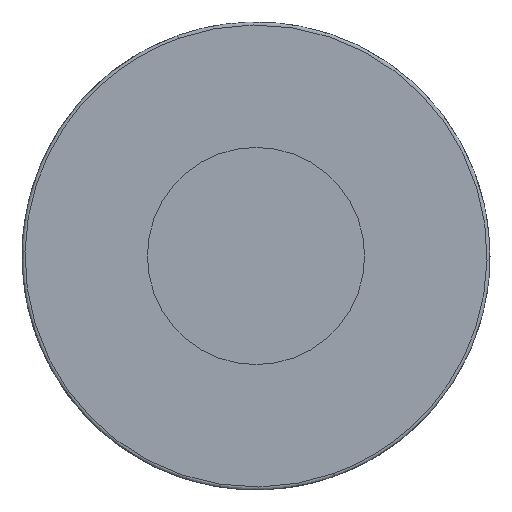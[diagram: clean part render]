
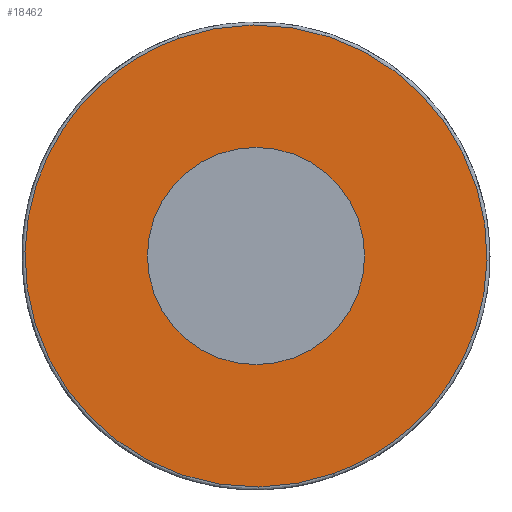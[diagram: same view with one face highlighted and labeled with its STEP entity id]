
A CAD part, left-side view. The second image highlights one B-rep face of the part: STEP entity #18462.
In plain terms, the highlighted free-form (B-spline) face has degree [1, 1] with [2, 2] control points.
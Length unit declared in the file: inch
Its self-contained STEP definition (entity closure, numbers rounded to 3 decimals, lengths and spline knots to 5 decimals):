
#2930 = CARTESIAN_POINT ( 'NONE',  ( 2.62704, -7.58101, 6.89548 ) ) ;
#3219 = CARTESIAN_POINT ( 'NONE',  ( 2.62704, -10.67397, -1.78239 ) ) ;
#3889 = CARTESIAN_POINT ( 'NONE',  ( 2.62704, -1.9961, -4.87536 ) ) ;
#4830 = CARTESIAN_POINT ( 'NONE',  ( 2.62704, 5.50643, 2.28954 ) ) ;
#6002 = CARTESIAN_POINT ( 'NONE',  ( 2.62704, -0.72058, -1.29666 ) ) ;
#6279 = ORIENTED_EDGE ( 'NONE', *, *, #11260, .F. ) ;
#7549 =( BOUNDED_CURVE ( )  B_SPLINE_CURVE ( 3, ( #22091, #15092, #8228, #19332 ),
 .UNSPECIFIED., .F., .T. ) 
 B_SPLINE_CURVE_WITH_KNOTS ( ( 4, 4 ),
 ( 0., 3.14159 ),
 .UNSPECIFIED. ) 
 CURVE ( )  GEOMETRIC_REPRESENTATION_ITEM ( )  RATIONAL_B_SPLINE_CURVE ( ( 0.957, 0.319, 0.319, 0.957 ) ) 
 REPRESENTATION_ITEM ( '' )  );
#8032 = EDGE_LOOP ( 'NONE', ( #6279, #14086 ) ) ;
#8228 = CARTESIAN_POINT ( 'NONE',  ( 2.62704, 9.77474, 0.70955 ) ) ;
#8404 =( BOUNDED_CURVE ( )  B_SPLINE_CURVE ( 3, ( #12618, #21520, #24131, #19336, #12761, #26166, #26025 ),
 .UNSPECIFIED., .F., .F. ) 
 B_SPLINE_CURVE_WITH_KNOTS ( ( 4, 3, 4 ),
 ( -3.14159, -1.5708, 0. ),
 .UNSPECIFIED. ) 
 CURVE ( )  GEOMETRIC_REPRESENTATION_ITEM ( )  RATIONAL_B_SPLINE_CURVE ( ( 1., 0.805, 0.805, 1., 0.805, 0.805, 1. ) ) 
 REPRESENTATION_ITEM ( '' )  );
#8589 = EDGE_CURVE ( 'NONE', #16836, #10717, #17661, .T. ) ;
#9777 = FACE_OUTER_BOUND ( 'NONE', #8032, .T. ) ;
#10245 = CARTESIAN_POINT ( 'NONE',  ( 2.62704, -0.72058, -1.29666 ) ) ;
#10571 = ORIENTED_EDGE ( 'NONE', *, *, #25318, .F. ) ;
#10717 = VERTEX_POINT ( 'NONE', #3889 ) ;
#11260 = EDGE_CURVE ( 'NONE', #10717, #16836, #7549, .T. ) ;
#12444 = CARTESIAN_POINT ( 'NONE',  ( 2.62704, -0.17865, 0.22382 ) ) ;
#12618 = CARTESIAN_POINT ( 'NONE',  ( 2.62704, -0.17865, 0.22382 ) ) ;
#12761 = CARTESIAN_POINT ( 'NONE',  ( 2.62704, 0.1519, -1.25273 ) ) ;
#14086 = ORIENTED_EDGE ( 'NONE', *, *, #8589, .F. ) ;
#14224 = CARTESIAN_POINT ( 'NONE',  ( 2.62704, -2.24106, -0.75473 ) ) ;
#15092 = CARTESIAN_POINT ( 'NONE',  ( 2.62704, 6.68178, -7.96833 ) ) ;
#16836 = VERTEX_POINT ( 'NONE', #20510 ) ;
#16970 = CARTESIAN_POINT ( 'NONE',  ( 2.62704, -1.69913, 0.76575 ) ) ;
#16977 = VERTEX_POINT ( 'NONE', #6002 ) ;
#17661 =( BOUNDED_CURVE ( )  B_SPLINE_CURVE ( 3, ( #18411, #2930, #3219, #21025 ),
 .UNSPECIFIED., .F., .T. ) 
 B_SPLINE_CURVE_WITH_KNOTS ( ( 4, 4 ),
 ( 0., 3.14159 ),
 .UNSPECIFIED. ) 
 CURVE ( )  GEOMETRIC_REPRESENTATION_ITEM ( )  RATIONAL_B_SPLINE_CURVE ( ( 0.957, 0.319, 0.319, 0.957 ) ) 
 REPRESENTATION_ITEM ( '' )  );
#18411 = CARTESIAN_POINT ( 'NONE',  ( 2.62704, 1.09687, 3.80252 ) ) ;
#18462 = ADVANCED_FACE ( 'NONE', ( #20885, #9777 ), #19984, .F. ) ;
#19332 = CARTESIAN_POINT ( 'NONE',  ( 2.62704, 1.09687, 3.80252 ) ) ;
#19336 = CARTESIAN_POINT ( 'NONE',  ( 2.62704, 0.31063, -0.80739 ) ) ;
#19984 = B_SPLINE_SURFACE_WITH_KNOTS ( 'NONE', 1, 1, ( 
 ( #27139, #4830 ),
 ( #23074, #24960 ) ),
 .UNSPECIFIED., .F., .F., .F.,
 ( 2, 2 ),
 ( 2, 2 ),
 ( 0., 1. ),
 ( 0., 1. ),
 .UNSPECIFIED. ) ;
#20510 = CARTESIAN_POINT ( 'NONE',  ( 2.62704, 1.09687, 3.80252 ) ) ;
#20597 = ORIENTED_EDGE ( 'NONE', *, *, #27191, .F. ) ;
#20885 = FACE_BOUND ( 'NONE', #22779, .T. ) ;
#21025 = CARTESIAN_POINT ( 'NONE',  ( 2.62704, -1.9961, -4.87536 ) ) ;
#21243 = CARTESIAN_POINT ( 'NONE',  ( 2.62704, -0.17865, 0.22382 ) ) ;
#21520 = CARTESIAN_POINT ( 'NONE',  ( 2.62704, 0.26669, 0.06509 ) ) ;
#22091 = CARTESIAN_POINT ( 'NONE',  ( 2.62704, -1.9961, -4.87536 ) ) ;
#22402 =( BOUNDED_CURVE ( )  B_SPLINE_CURVE ( 3, ( #10245, #14224, #16970, #12444 ),
 .UNSPECIFIED., .F., .T. ) 
 B_SPLINE_CURVE_WITH_KNOTS ( ( 4, 4 ),
 ( -3.14159, 0. ),
 .UNSPECIFIED. ) 
 CURVE ( )  GEOMETRIC_REPRESENTATION_ITEM ( )  RATIONAL_B_SPLINE_CURVE ( ( 1., 0.333, 0.333, 1. ) ) 
 REPRESENTATION_ITEM ( '' )  );
#22779 = EDGE_LOOP ( 'NONE', ( #10571, #20597 ) ) ;
#23074 = CARTESIAN_POINT ( 'NONE',  ( 2.62704, -6.40566, -3.36239 ) ) ;
#24131 = CARTESIAN_POINT ( 'NONE',  ( 2.62704, 0.46935, -0.36205 ) ) ;
#24960 = CARTESIAN_POINT ( 'NONE',  ( 2.62704, 2.37635, -6.49247 ) ) ;
#25318 = EDGE_CURVE ( 'NONE', #25758, #16977, #8404, .T. ) ;
#25758 = VERTEX_POINT ( 'NONE', #21243 ) ;
#26025 = CARTESIAN_POINT ( 'NONE',  ( 2.62704, -0.72058, -1.29666 ) ) ;
#26166 = CARTESIAN_POINT ( 'NONE',  ( 2.62704, -0.27524, -1.45539 ) ) ;
#27139 = CARTESIAN_POINT ( 'NONE',  ( 2.62704, -3.27558, 5.41962 ) ) ;
#27191 = EDGE_CURVE ( 'NONE', #16977, #25758, #22402, .T. ) ;
